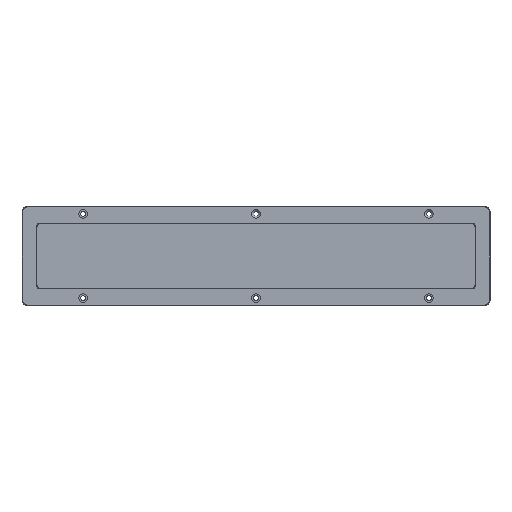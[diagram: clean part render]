
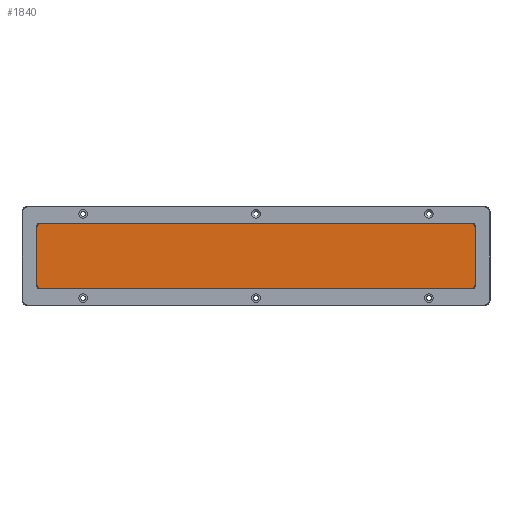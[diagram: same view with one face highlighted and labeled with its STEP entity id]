
A CAD part, top view. The second image highlights one B-rep face of the part: STEP entity #1840.
In plain terms, the highlighted planar face has unit normal (0, 0, 1).
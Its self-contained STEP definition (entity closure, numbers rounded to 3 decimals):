
#88=PLANE('',#1993);
#158=FACE_OUTER_BOUND('',#276,.T.);
#276=EDGE_LOOP('',(#1303,#1304,#1305,#1306,#1307,#1308,#1309,#1310));
#402=LINE('',#2927,#566);
#403=LINE('',#2931,#567);
#404=LINE('',#2935,#568);
#405=LINE('',#2939,#569);
#566=VECTOR('',#2256,10.);
#567=VECTOR('',#2259,10.);
#568=VECTOR('',#2262,10.);
#569=VECTOR('',#2265,10.);
#732=CIRCLE('',#1994,3.9);
#733=CIRCLE('',#1995,3.9);
#734=CIRCLE('',#1996,3.9);
#735=CIRCLE('',#1997,3.9);
#824=VERTEX_POINT('',#2925);
#825=VERTEX_POINT('',#2926);
#826=VERTEX_POINT('',#2928);
#827=VERTEX_POINT('',#2930);
#828=VERTEX_POINT('',#2932);
#829=VERTEX_POINT('',#2934);
#830=VERTEX_POINT('',#2936);
#831=VERTEX_POINT('',#2938);
#1003=EDGE_CURVE('',#824,#825,#402,.T.);
#1004=EDGE_CURVE('',#825,#826,#732,.T.);
#1005=EDGE_CURVE('',#826,#827,#403,.T.);
#1006=EDGE_CURVE('',#827,#828,#733,.T.);
#1007=EDGE_CURVE('',#828,#829,#404,.T.);
#1008=EDGE_CURVE('',#829,#830,#734,.T.);
#1009=EDGE_CURVE('',#830,#831,#405,.T.);
#1010=EDGE_CURVE('',#831,#824,#735,.T.);
#1303=ORIENTED_EDGE('',*,*,#1003,.T.);
#1304=ORIENTED_EDGE('',*,*,#1004,.T.);
#1305=ORIENTED_EDGE('',*,*,#1005,.T.);
#1306=ORIENTED_EDGE('',*,*,#1006,.T.);
#1307=ORIENTED_EDGE('',*,*,#1007,.T.);
#1308=ORIENTED_EDGE('',*,*,#1008,.T.);
#1309=ORIENTED_EDGE('',*,*,#1009,.T.);
#1310=ORIENTED_EDGE('',*,*,#1010,.T.);
#1840=ADVANCED_FACE('',(#158),#88,.F.);
#1993=AXIS2_PLACEMENT_3D('',#2924,#2254,#2255);
#1994=AXIS2_PLACEMENT_3D('',#2929,#2257,#2258);
#1995=AXIS2_PLACEMENT_3D('',#2933,#2260,#2261);
#1996=AXIS2_PLACEMENT_3D('',#2937,#2263,#2264);
#1997=AXIS2_PLACEMENT_3D('',#2940,#2266,#2267);
#2254=DIRECTION('center_axis',(0.,0.,
-1.));
#2255=DIRECTION('ref_axis',(-1.,0.,0.));
#2256=DIRECTION('',(0.,1.,0.));
#2257=DIRECTION('center_axis',(0.,0.,
1.));
#2258=DIRECTION('ref_axis',(1.,0.,0.));
#2259=DIRECTION('',(-1.,0.,0.));
#2260=DIRECTION('center_axis',(0.,0.,
1.));
#2261=DIRECTION('ref_axis',(0.,1.,0.));
#2262=DIRECTION('',(0.,-1.,0.));
#2263=DIRECTION('center_axis',(0.,0.,
1.));
#2264=DIRECTION('ref_axis',(-1.,0.,0.));
#2265=DIRECTION('',(1.,0.,0.));
#2266=DIRECTION('center_axis',(0.,0.,
1.));
#2267=DIRECTION('ref_axis',(0.,-1.,0.));
#2924=CARTESIAN_POINT('Origin',(-63.087,-12.715,46.865));
#2925=CARTESIAN_POINT('',(144.888,-39.79,46.865));
#2926=CARTESIAN_POINT('',(144.888,14.36,46.865));
#2927=CARTESIAN_POINT('',(144.888,-39.79,46.865));
#2928=CARTESIAN_POINT('',(140.988,18.26,46.865));
#2929=CARTESIAN_POINT('Origin',(140.988,14.36,46.865));
#2930=CARTESIAN_POINT('',(-267.162,18.26,46.865));
#2931=CARTESIAN_POINT('',(140.988,18.26,46.865));
#2932=CARTESIAN_POINT('',(-271.062,14.36,46.865));
#2933=CARTESIAN_POINT('Origin',(-267.162,14.36,46.865));
#2934=CARTESIAN_POINT('',(-271.062,-39.79,46.865));
#2935=CARTESIAN_POINT('',(-271.062,14.36,46.865));
#2936=CARTESIAN_POINT('',(-267.162,-43.69,46.865));
#2937=CARTESIAN_POINT('Origin',(-267.162,-39.79,46.865));
#2938=CARTESIAN_POINT('',(140.988,-43.69,46.865));
#2939=CARTESIAN_POINT('',(-267.162,-43.69,46.865));
#2940=CARTESIAN_POINT('Origin',(140.988,-39.79,46.865));
